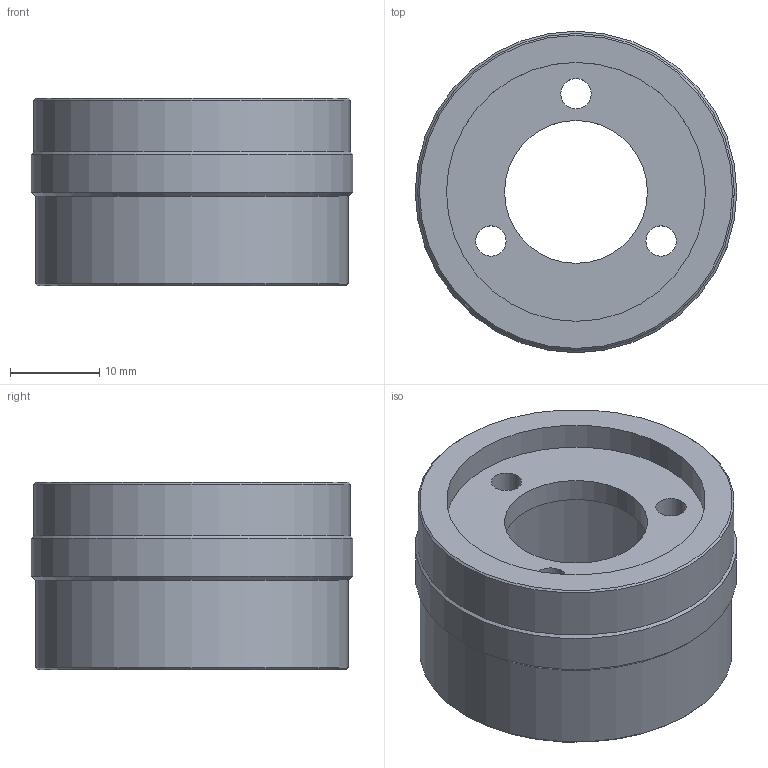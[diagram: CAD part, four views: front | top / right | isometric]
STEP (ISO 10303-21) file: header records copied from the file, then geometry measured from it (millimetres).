
FILE_DESCRIPTION(/* description */ (''),/* implementation_level */ '2;1');
FILE_NAME(/* name */ '38-A_flange_e_(416.4171.03).stp',/* time_stamp */ '2018-06-29T14:43:17+02:00',/* author */ ('DR. FRITZ FAULHABER GmbH & Co. KG'),/* organization */ ('DR. FRITZ FAULHABER GmbH & Co. KG'),/* preprocessor_version */ 'ST-DEVELOPER v16.7',/* originating_system */ 'SIEMENS PLM Software NX 12.0',/* authorisation */ '');
FILE_SCHEMA (('AUTOMOTIVE_DESIGN { 1 0 10303 214 3 1 1 1 }'));
Length unit declared in the file: millimetre
Products named in the file (1): F0005403900-B-416.4171.03
Bounding box: 36 x 36 x 21 mm (x, y, z)
Volume: 5573.3 mm3; surface area: 5863.7 mm2
Topology: 1 solids, 1 shells, 18 faces, 41 edges, 27 vertices
Faces by surface type: cylinder 9, cone 5, plane 4
Full cylindrical faces by diameter (mm): 3.4 x3, 16 x1, 29 x1, 32.1 x1, 35 x1, 35.46 x1, 36 x1
Entity records: 434 total; most frequent: DIRECTION 80, CARTESIAN_POINT 61, FACE_BOUND 42, EDGE_LOOP 42, ORIENTED_EDGE 42, AXIS2_PLACEMENT_3D 40, VERTEX_POINT 21, EDGE_CURVE 21
